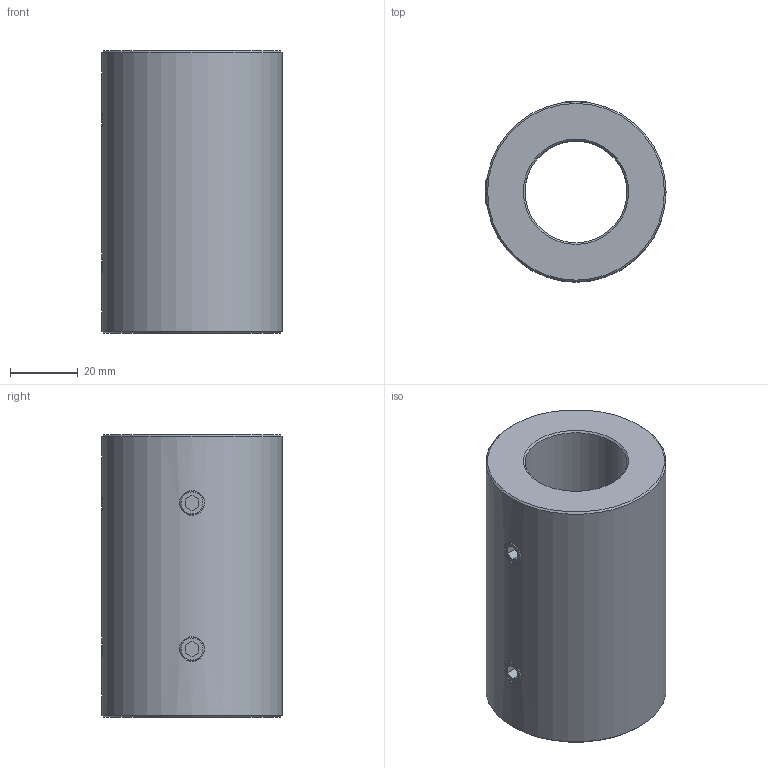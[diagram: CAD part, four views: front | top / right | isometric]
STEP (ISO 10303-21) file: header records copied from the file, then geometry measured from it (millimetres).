
FILE_DESCRIPTION (( 'STEP AP214' ), '1' );
FILE_NAME ('KBST1-VA-30.STEP', '2025-07-29T07:06:11', ( '' ), ( '' ), 'SwSTEP 2.0', 'SolidWorks 2024', '' );
FILE_SCHEMA (( 'AUTOMOTIVE_DESIGN' ));
Length unit declared in the file: millimetre
Products named in the file (1): KBST1-VA-30
Bounding box: 53 x 53 x 83 mm (x, y, z)
Volume: 122294.9 mm3; surface area: 26605.3 mm2
Topology: 5 solids, 5 shells, 80 faces, 178 edges, 104 vertices
Faces by surface type: plane 34, cone 28, cylinder 14, bspline 4
Full cylindrical faces by diameter (mm): 6.8 x4, 30 x1, 53 x1
Entity records: 8247 total; most frequent: CARTESIAN_POINT 5625, DIRECTION 338, ORIENTED_EDGE 312, EDGE_CURVE 156, AXIS2_PLACEMENT_3D 117, EDGE_LOOP 108, VERTEX_POINT 104, LINE 104
